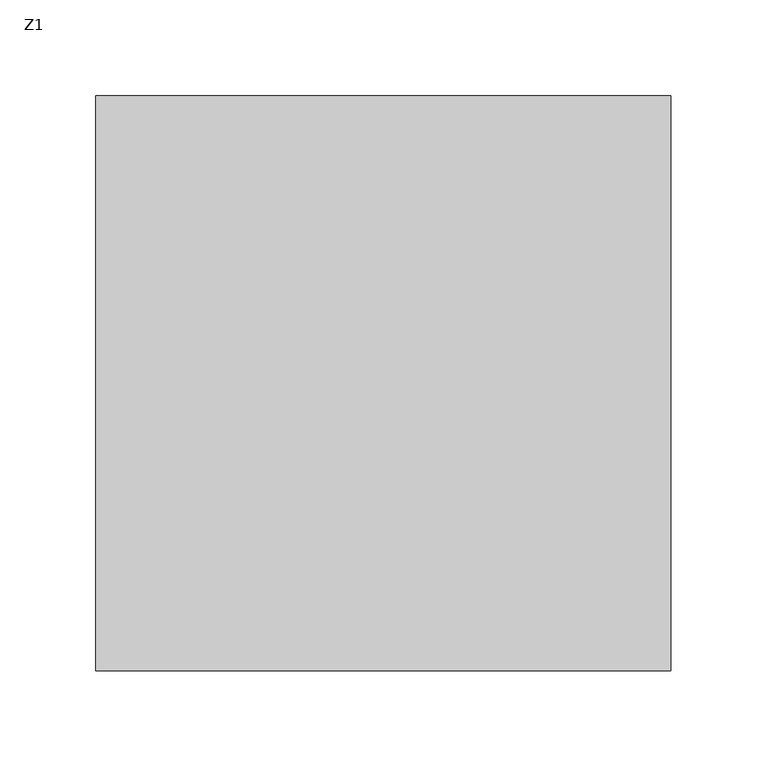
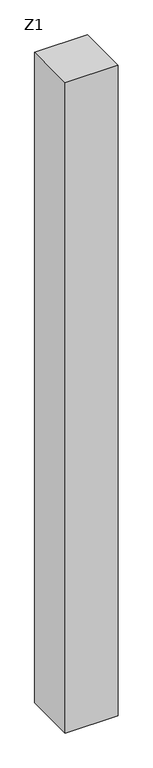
"""IFC4 building model written with IfcOpenShell, lengths in millimetres: column geometry, 混凝土 - 矩形 - 柱 : Z1."""

from ifc_helpers import new_model, si_unit, origin, origin_with_axes, place, context, project, spatial, polyline, outline, extrude, source, transform, mapped, element, save


def z1_a0f7b782(model_context):
    return source(origin(), model_context, "Body", "SweptSolid", [
        extrude(outline(polyline([(150.0, -150.0), (-150.0, -150.0), (-150.0, 150.0), (150.0, 150.0), (150.0, -150.0)])), origin_with_axes(), (0.0, 0.0, 1.0), 3900.0),
    ])


if __name__ == "__main__":
    model = new_model("IFC4")
    model_context = context("Model", 3, world=origin())
    ifc_project = project(units=[si_unit("LENGTHUNIT", "METRE", prefix="MILLI")], contexts=[model_context])
    site = spatial("IfcSite", under=ifc_project)
    building = spatial("IfcBuilding", under=site)
    placement = place(None, origin())
    z1_shape = z1_a0f7b782(model_context)
    element("IfcColumn", 1, ObjectType="混凝土 - 矩形 - 柱 : Z1", at=placement, inside=building, context=model_context, shape_type="MappedRepresentation", body=[
        mapped(z1_shape, transform((0.0, 0.0, 0.0), x_axis=(1.0, 0.0, 0.0), y_axis=(0.0, 1.0, 0.0), z_axis=(0.0, 0.0, 1.0))),
    ])
    save(model, "model.ifc")
